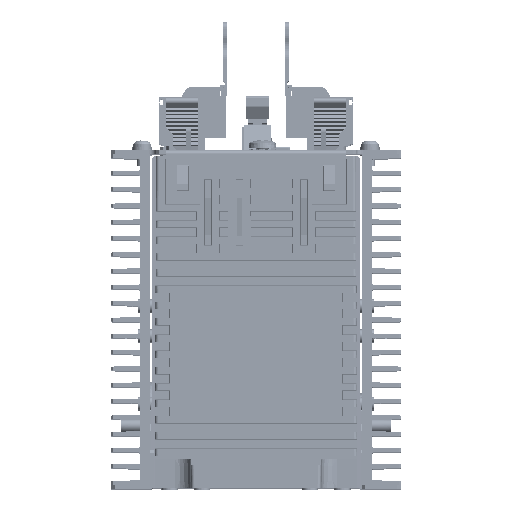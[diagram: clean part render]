
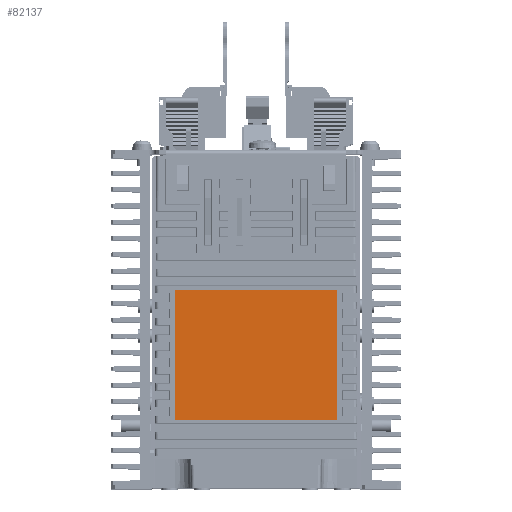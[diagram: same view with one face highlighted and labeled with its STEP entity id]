
A CAD part, top view. The second image highlights one B-rep face of the part: STEP entity #82137.
In plain terms, the highlighted planar face has unit normal (0, 0, 1).
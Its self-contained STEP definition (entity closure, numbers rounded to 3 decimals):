
#8748 = LINE ( 'NONE', #173067, #158256 ) ;
#9643 = LINE ( 'NONE', #224591, #63628 ) ;
#35314 = CARTESIAN_POINT ( 'NONE',  ( 0., 0.3, 99.7 ) ) ;
#41188 = VERTEX_POINT ( 'NONE', #178220 ) ;
#42312 = FACE_OUTER_BOUND ( 'NONE', #169855, .T. ) ;
#54581 = DIRECTION ( 'NONE',  ( 0., -1., 0. ) ) ;
#55681 = DIRECTION ( 'NONE',  ( 0., 0., 1. ) ) ;
#57052 = AXIS2_PLACEMENT_3D ( 'NONE', #35314, #55681, #198086 ) ;
#63628 = VECTOR ( 'NONE', #245071, 1000. ) ;
#73958 = EDGE_CURVE ( 'NONE', #234419, #202852, #8748, .T. ) ;
#76364 = LINE ( 'NONE', #219779, #184637 ) ;
#82137 = ADVANCED_FACE ( 'NONE', ( #42312 ), #157180, .T. ) ;
#91732 = EDGE_CURVE ( 'NONE', #41188, #204340, #9643, .T. ) ;
#95563 = ORIENTED_EDGE ( 'NONE', *, *, #91732, .T. ) ;
#124815 = VECTOR ( 'NONE', #54581, 1000. ) ;
#124892 = ORIENTED_EDGE ( 'NONE', *, *, #212735, .T. ) ;
#157180 = PLANE ( 'NONE',  #57052 ) ;
#158256 = VECTOR ( 'NONE', #178451, 1000. ) ;
#169855 = EDGE_LOOP ( 'NONE', ( #210937, #217371, #124892, #95563 ) ) ;
#173067 = CARTESIAN_POINT ( 'NONE',  ( -25., 21.1, 99.7 ) ) ;
#176191 = EDGE_CURVE ( 'NONE', #204340, #234419, #226791, .T. ) ;
#178220 = CARTESIAN_POINT ( 'NONE',  ( 25., 61.1, 99.7 ) ) ;
#178451 = DIRECTION ( 'NONE',  ( 1., 0., 0. ) ) ;
#184637 = VECTOR ( 'NONE', #197465, 1000. ) ;
#188602 = CARTESIAN_POINT ( 'NONE',  ( -25., 61.1, 99.7 ) ) ;
#196985 = CARTESIAN_POINT ( 'NONE',  ( -25., 61.1, 99.7 ) ) ;
#197465 = DIRECTION ( 'NONE',  ( 0., 1., 0. ) ) ;
#198086 = DIRECTION ( 'NONE',  ( 1., 0., 0. ) ) ;
#202852 = VERTEX_POINT ( 'NONE', #218729 ) ;
#204340 = VERTEX_POINT ( 'NONE', #188602 ) ;
#210937 = ORIENTED_EDGE ( 'NONE', *, *, #176191, .T. ) ;
#212735 = EDGE_CURVE ( 'NONE', #202852, #41188, #76364, .T. ) ;
#217371 = ORIENTED_EDGE ( 'NONE', *, *, #73958, .T. ) ;
#218729 = CARTESIAN_POINT ( 'NONE',  ( 25., 21.1, 99.7 ) ) ;
#219779 = CARTESIAN_POINT ( 'NONE',  ( 25., 61.1, 99.7 ) ) ;
#223043 = CARTESIAN_POINT ( 'NONE',  ( -25., 21.1, 99.7 ) ) ;
#224591 = CARTESIAN_POINT ( 'NONE',  ( -25., 61.1, 99.7 ) ) ;
#226791 = LINE ( 'NONE', #196985, #124815 ) ;
#234419 = VERTEX_POINT ( 'NONE', #223043 ) ;
#245071 = DIRECTION ( 'NONE',  ( -1., 0., 0. ) ) ;
